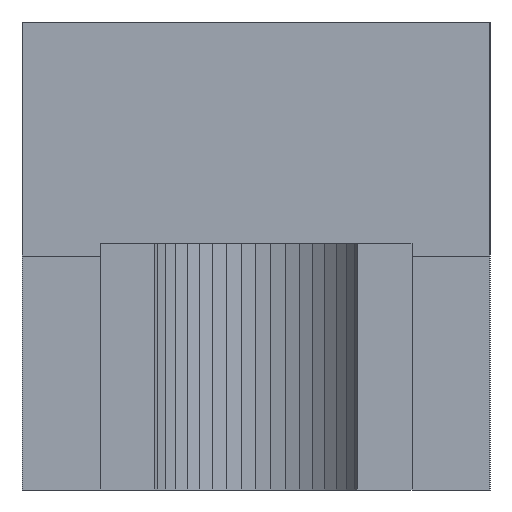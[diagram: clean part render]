
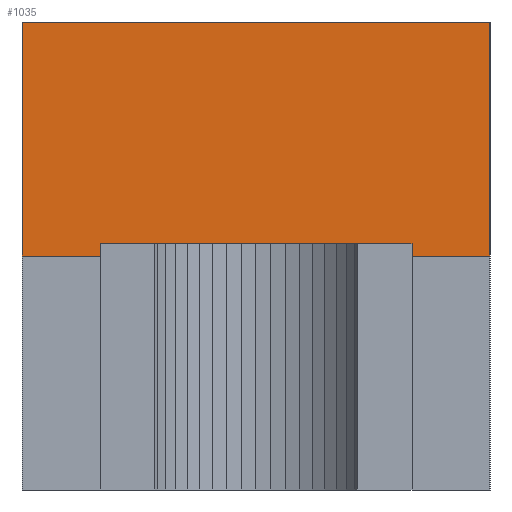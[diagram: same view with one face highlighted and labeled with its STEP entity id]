
A CAD part, left-side view. The second image highlights one B-rep face of the part: STEP entity #1035.
In plain terms, the highlighted planar face has unit normal (-1, 0, 0).
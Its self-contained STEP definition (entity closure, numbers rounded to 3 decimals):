
#44 = PLANE('',#45);
#45 = AXIS2_PLACEMENT_3D('',#46,#47,#48);
#46 = CARTESIAN_POINT('',(-0.8,-0.4,0.4));
#47 = DIRECTION('',(0.,0.,1.));
#48 = DIRECTION('',(1.,0.,0.));
#141 = VERTEX_POINT('',#142);
#142 = CARTESIAN_POINT('',(-0.5,-0.4,0.4));
#163 = EDGE_CURVE('',#141,#164,#166,.T.);
#164 = VERTEX_POINT('',#165);
#165 = CARTESIAN_POINT('',(-0.5,0.4,0.4));
#166 = SURFACE_CURVE('',#167,(#171,#178),.PCURVE_S1.);
#167 = LINE('',#168,#169);
#168 = CARTESIAN_POINT('',(-0.5,-0.4,0.4));
#169 = VECTOR('',#170,1.);
#170 = DIRECTION('',(0.,1.,0.));
#171 = PCURVE('',#44,#172);
#172 = DEFINITIONAL_REPRESENTATION('',(#173),#177);
#173 = LINE('',#174,#175);
#174 = CARTESIAN_POINT('',(0.3,0.));
#175 = VECTOR('',#176,1.);
#176 = DIRECTION('',(0.,1.));
#177 = ( GEOMETRIC_REPRESENTATION_CONTEXT(2) 
PARAMETRIC_REPRESENTATION_CONTEXT() REPRESENTATION_CONTEXT('2D SPACE',''
  ) );
#178 = PCURVE('',#179,#184);
#179 = PLANE('',#180);
#180 = AXIS2_PLACEMENT_3D('',#181,#182,#183);
#181 = CARTESIAN_POINT('',(-0.5,-0.4,0.4));
#182 = DIRECTION('',(1.,0.,0.));
#183 = DIRECTION('',(0.,0.,1.));
#184 = DEFINITIONAL_REPRESENTATION('',(#185),#189);
#185 = LINE('',#186,#187);
#186 = CARTESIAN_POINT('',(0.,0.));
#187 = VECTOR('',#188,1.);
#188 = DIRECTION('',(0.,-1.));
#189 = ( GEOMETRIC_REPRESENTATION_CONTEXT(2) 
PARAMETRIC_REPRESENTATION_CONTEXT() REPRESENTATION_CONTEXT('2D SPACE',''
  ) );
#725 = PLANE('',#726);
#726 = AXIS2_PLACEMENT_3D('',#727,#728,#729);
#727 = CARTESIAN_POINT('',(-0.5,-0.4,0.4));
#728 = DIRECTION('',(0.,1.,0.));
#729 = DIRECTION('',(0.,0.,1.));
#980 = PLANE('',#981);
#981 = AXIS2_PLACEMENT_3D('',#982,#983,#984);
#982 = CARTESIAN_POINT('',(-0.5,0.4,0.4));
#983 = DIRECTION('',(0.,1.,0.));
#984 = DIRECTION('',(0.,0.,1.));
#1035 = ADVANCED_FACE('',(#1036),#179,.F.);
#1036 = FACE_BOUND('',#1037,.F.);
#1037 = EDGE_LOOP('',(#1038,#1061,#1062,#1085));
#1038 = ORIENTED_EDGE('',*,*,#1039,.F.);
#1039 = EDGE_CURVE('',#141,#1040,#1042,.T.);
#1040 = VERTEX_POINT('',#1041);
#1041 = CARTESIAN_POINT('',(-0.5,-0.4,0.8));
#1042 = SURFACE_CURVE('',#1043,(#1047,#1054),.PCURVE_S1.);
#1043 = LINE('',#1044,#1045);
#1044 = CARTESIAN_POINT('',(-0.5,-0.4,0.4));
#1045 = VECTOR('',#1046,1.);
#1046 = DIRECTION('',(0.,0.,1.));
#1047 = PCURVE('',#179,#1048);
#1048 = DEFINITIONAL_REPRESENTATION('',(#1049),#1053);
#1049 = LINE('',#1050,#1051);
#1050 = CARTESIAN_POINT('',(0.,0.));
#1051 = VECTOR('',#1052,1.);
#1052 = DIRECTION('',(1.,0.));
#1053 = ( GEOMETRIC_REPRESENTATION_CONTEXT(2) 
PARAMETRIC_REPRESENTATION_CONTEXT() REPRESENTATION_CONTEXT('2D SPACE',''
  ) );
#1054 = PCURVE('',#725,#1055);
#1055 = DEFINITIONAL_REPRESENTATION('',(#1056),#1060);
#1056 = LINE('',#1057,#1058);
#1057 = CARTESIAN_POINT('',(0.,0.));
#1058 = VECTOR('',#1059,1.);
#1059 = DIRECTION('',(1.,0.));
#1060 = ( GEOMETRIC_REPRESENTATION_CONTEXT(2) 
PARAMETRIC_REPRESENTATION_CONTEXT() REPRESENTATION_CONTEXT('2D SPACE',''
  ) );
#1061 = ORIENTED_EDGE('',*,*,#163,.T.);
#1062 = ORIENTED_EDGE('',*,*,#1063,.T.);
#1063 = EDGE_CURVE('',#164,#1064,#1066,.T.);
#1064 = VERTEX_POINT('',#1065);
#1065 = CARTESIAN_POINT('',(-0.5,0.4,0.8));
#1066 = SURFACE_CURVE('',#1067,(#1071,#1078),.PCURVE_S1.);
#1067 = LINE('',#1068,#1069);
#1068 = CARTESIAN_POINT('',(-0.5,0.4,0.4));
#1069 = VECTOR('',#1070,1.);
#1070 = DIRECTION('',(0.,0.,1.));
#1071 = PCURVE('',#179,#1072);
#1072 = DEFINITIONAL_REPRESENTATION('',(#1073),#1077);
#1073 = LINE('',#1074,#1075);
#1074 = CARTESIAN_POINT('',(0.,-0.8));
#1075 = VECTOR('',#1076,1.);
#1076 = DIRECTION('',(1.,0.));
#1077 = ( GEOMETRIC_REPRESENTATION_CONTEXT(2) 
PARAMETRIC_REPRESENTATION_CONTEXT() REPRESENTATION_CONTEXT('2D SPACE',''
  ) );
#1078 = PCURVE('',#980,#1079);
#1079 = DEFINITIONAL_REPRESENTATION('',(#1080),#1084);
#1080 = LINE('',#1081,#1082);
#1081 = CARTESIAN_POINT('',(0.,0.));
#1082 = VECTOR('',#1083,1.);
#1083 = DIRECTION('',(1.,0.));
#1084 = ( GEOMETRIC_REPRESENTATION_CONTEXT(2) 
PARAMETRIC_REPRESENTATION_CONTEXT() REPRESENTATION_CONTEXT('2D SPACE',''
  ) );
#1085 = ORIENTED_EDGE('',*,*,#1086,.F.);
#1086 = EDGE_CURVE('',#1040,#1064,#1087,.T.);
#1087 = SURFACE_CURVE('',#1088,(#1092,#1099),.PCURVE_S1.);
#1088 = LINE('',#1089,#1090);
#1089 = CARTESIAN_POINT('',(-0.5,-0.4,0.8));
#1090 = VECTOR('',#1091,1.);
#1091 = DIRECTION('',(0.,1.,0.));
#1092 = PCURVE('',#179,#1093);
#1093 = DEFINITIONAL_REPRESENTATION('',(#1094),#1098);
#1094 = LINE('',#1095,#1096);
#1095 = CARTESIAN_POINT('',(0.4,0.));
#1096 = VECTOR('',#1097,1.);
#1097 = DIRECTION('',(0.,-1.));
#1098 = ( GEOMETRIC_REPRESENTATION_CONTEXT(2) 
PARAMETRIC_REPRESENTATION_CONTEXT() REPRESENTATION_CONTEXT('2D SPACE',''
  ) );
#1099 = PCURVE('',#1100,#1105);
#1100 = PLANE('',#1101);
#1101 = AXIS2_PLACEMENT_3D('',#1102,#1103,#1104);
#1102 = CARTESIAN_POINT('',(-0.5,-0.4,0.8));
#1103 = DIRECTION('',(0.,0.,1.));
#1104 = DIRECTION('',(1.,0.,0.));
#1105 = DEFINITIONAL_REPRESENTATION('',(#1106),#1110);
#1106 = LINE('',#1107,#1108);
#1107 = CARTESIAN_POINT('',(0.,0.));
#1108 = VECTOR('',#1109,1.);
#1109 = DIRECTION('',(0.,1.));
#1110 = ( GEOMETRIC_REPRESENTATION_CONTEXT(2) 
PARAMETRIC_REPRESENTATION_CONTEXT() REPRESENTATION_CONTEXT('2D SPACE',''
  ) );
